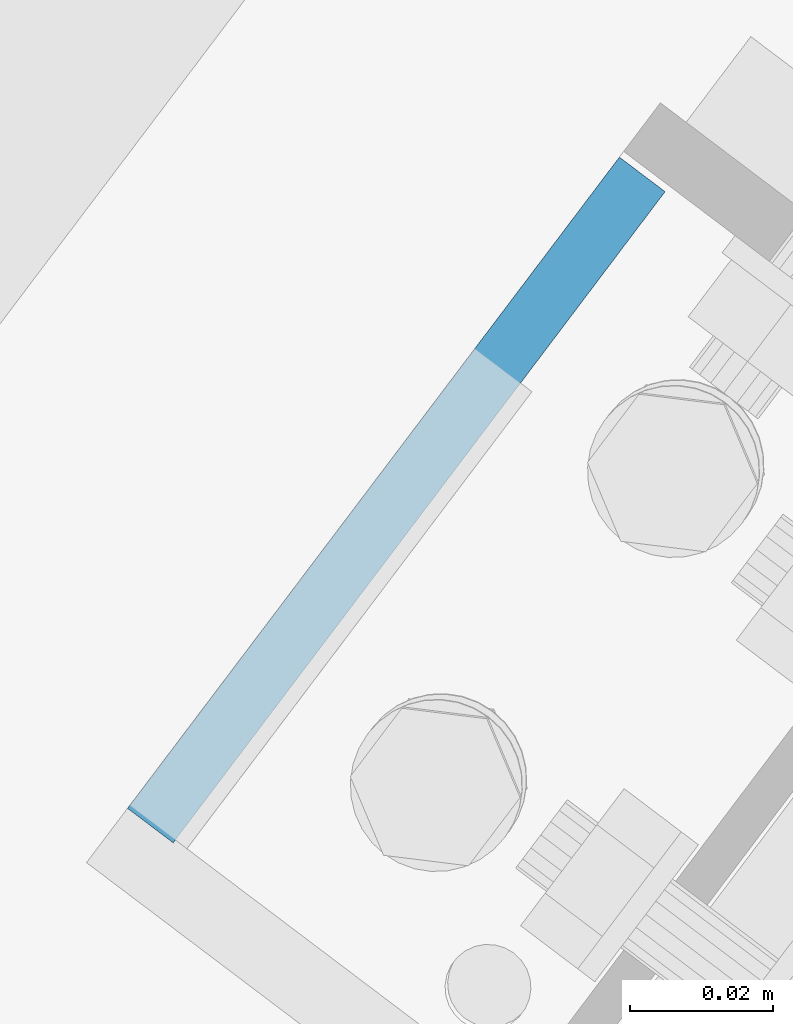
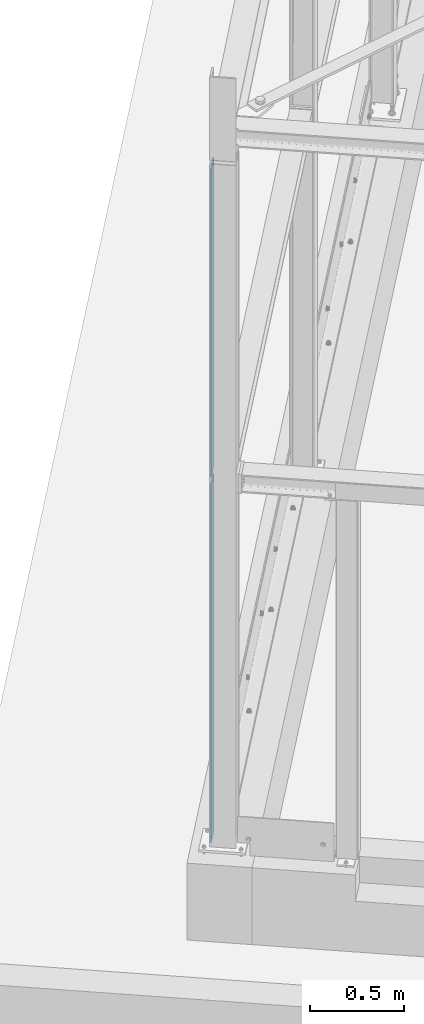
# One storey, part 29 of 476: 2 plates.
"""IFC2X3 building model written with IfcOpenShell, lengths in millimetres."""

from ifc_helpers import new_model, entity, si_unit, converted_unit, frame, origin_with_axes, place, context, project, spatial, polyline, outline, extrude, material, layer, layer_set, element, save


model = new_model("IFC2X3")

# Units and contexts
model_context = context("Model", 3, precision=1e-09, world=origin_with_axes())
ifc_project = project(units=[si_unit("LENGTHUNIT", "METRE", prefix="MILLI"), si_unit("AREAUNIT", "SQUARE_METRE"), si_unit("VOLUMEUNIT", "CUBIC_METRE"), converted_unit("PLANEANGLEUNIT", "DEGREE", entity("IfcPlaneAngleMeasure", 0.01745329), si_unit("PLANEANGLEUNIT", "RADIAN"), dimensions=[0, 0, 0, 0, 0, 0, 0])], contexts=[model_context])

# Site, building, storey
site_placement = place(None, origin_with_axes())
site = spatial("IfcSite", under=ifc_project, at=site_placement, Name="mKR Teilneubau & Sanierung BA1 - Ostfildern", CompositionType="ELEMENT")
building_placement = place(site_placement, origin_with_axes())
building = spatial("IfcBuilding", under=site, at=building_placement, Name="Struktur 1", CompositionType="ELEMENT")
storey_placement = place(building_placement, origin_with_axes())
storey = spatial("IfcBuildingStorey", under=building, at=storey_placement, Name="Default Storey", CompositionType="ELEMENT", Elevation=0.0)

# Plates
ifc_material = material(Name="S235JR")
ifc_layer = layer(ifc_material, 8.0)
ifc_layer_set = layer_set([ifc_layer], Name="S235JR")
plate_1_placement = place(None, frame((198.45582173, 69.406631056, 2952.940335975), z_axis=(-0.797941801, 0.602734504, 0.0), x_axis=(-0.602734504, -0.797941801, 0.0)))
element("IfcPlate", 1, at=plate_1_placement, inside=storey, material=ifc_layer_set, Name="-", ObjectType="-", context=model_context, shape_type="SweptSolid", body=[
    extrude(outline(polyline([(-57.0, -15.940335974), (57.0, -15.940335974), (57.0, 1987.939335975), (-57.0, 1987.939335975), (-57.0, -15.940335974)])), origin_with_axes(), (0.0, 0.0, 1.0), 8.0),
])
plate_2_placement = place(None, frame((198.45582173, 69.406631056, 2952.940335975), z_axis=(-0.797941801, 0.602734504, 0.0), x_axis=(-0.602734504, -0.797941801, 0.0)))
element("IfcPlate", 2, at=plate_2_placement, inside=storey, material=ifc_layer_set, Name="-", ObjectType="-", context=model_context, shape_type="SweptSolid", body=[
    extrude(outline(polyline([(-57.0, -65.940335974), (-57.0, -2392.939335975), (57.0, -2392.939335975), (57.0, -65.940335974), (-57.0, -65.940335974)])), origin_with_axes(), (0.0, 0.0, 1.0), 8.0),
])

save(model, "model.ifc")
